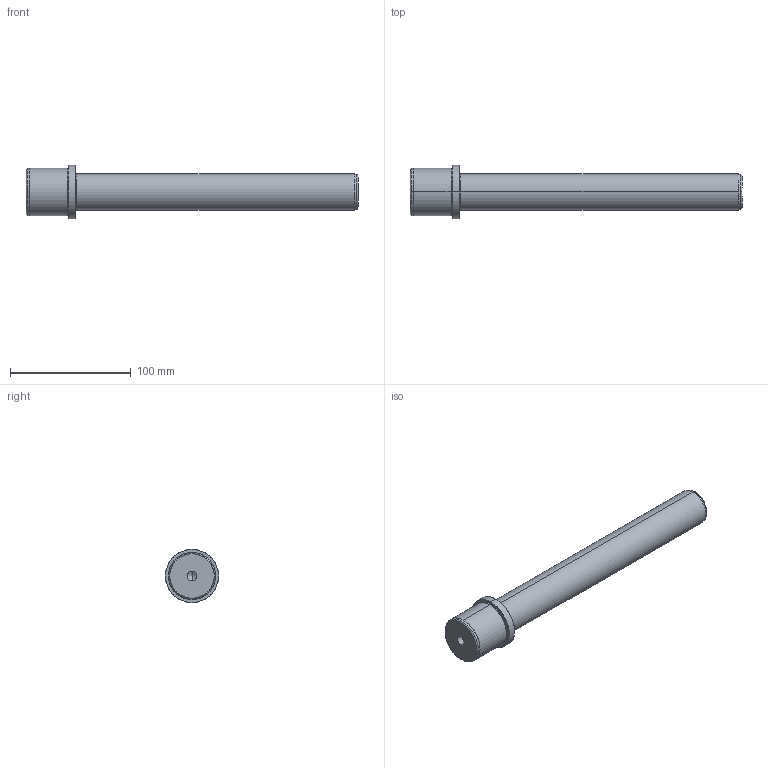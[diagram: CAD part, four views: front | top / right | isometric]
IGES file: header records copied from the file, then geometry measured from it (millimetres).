
Start section: SolidWorks IGES file using analytic representation for surfaces
Global section: file name: C:\Documents and Settings\kalite-mail\Desktop\IGS\D05\D05 - 30x240x35.IGS; native system: SolidWorks 2008; preprocessor: SolidWorks 2008; author: kalite-mail; date: 080617.111231; units: millimetre
Bounding box: 275 x 44 x 44 mm (x, y, z)
Surface area: 30402.3 mm2 (no closed solid volume)
Topology: 0 solids, 0 shells, 29 faces, 856 edges, 854 vertices
Faces by surface type: revolution 20, bspline 9
